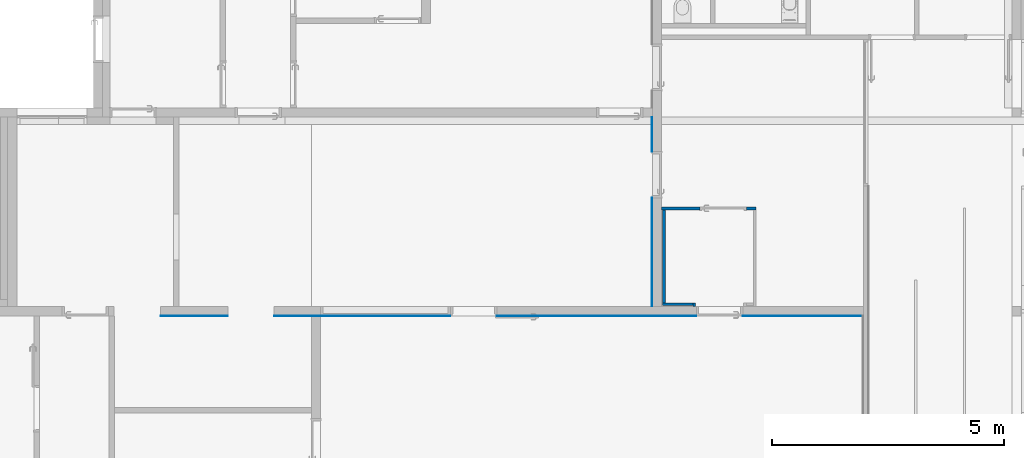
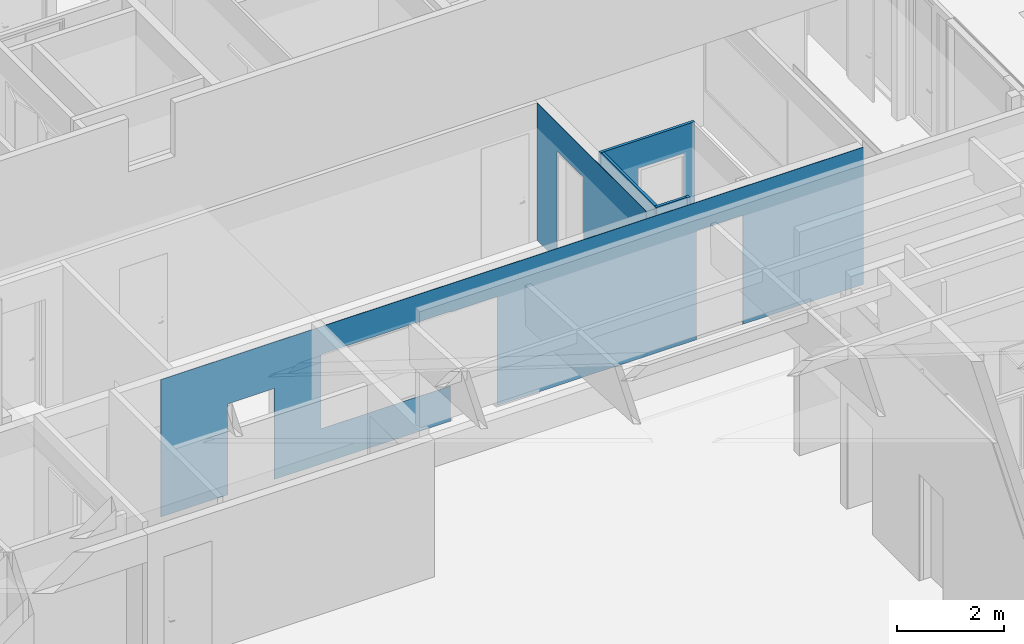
# One storey, part 87 of 240: 6 walls, 7 openings.
"""IFC2X3 building model written with IfcOpenShell, lengths in centimetres."""

from ifc_helpers import new_model, entity, si_unit, converted_unit, derived_unit, direction, frame, frame_2d, origin, origin_2d_with_axis, place, context, subcontext, project, spatial, rectangle, extrude, material, layer, layer_set, layer_usage, type_object, element, save


model = new_model("IFC2X3")

# Units and contexts
model_context = context("Model", 3, precision=0.001, world=origin(), true_north=direction((6.12303176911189e-17, 1.0)))
body_context = subcontext(model_context, "Body", "Model", "MODEL_VIEW")
ifc_project = project(units=[si_unit("LENGTHUNIT", "METRE", prefix="CENTI"), si_unit("AREAUNIT", "SQUARE_METRE"), si_unit("VOLUMEUNIT", "CUBIC_METRE"), converted_unit("PLANEANGLEUNIT", "DEGREE", entity("IfcRatioMeasure", 0.0174532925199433), si_unit("PLANEANGLEUNIT", "RADIAN"), dimensions=[0, 0, 0, 0, 0, 0, 0]), si_unit("MASSUNIT", "GRAM", prefix="KILO"), derived_unit("MASSDENSITYUNIT", [(si_unit("MASSUNIT", "GRAM", prefix="KILO"), 1), (si_unit("LENGTHUNIT", "METRE"), -3)]), si_unit("TIMEUNIT", "SECOND"), si_unit("FREQUENCYUNIT", "HERTZ"), si_unit("THERMODYNAMICTEMPERATUREUNIT", "DEGREE_CELSIUS"), derived_unit("THERMALTRANSMITTANCEUNIT", [(si_unit("MASSUNIT", "GRAM", prefix="KILO"), 1), (si_unit("THERMODYNAMICTEMPERATUREUNIT", "KELVIN"), -1), (si_unit("TIMEUNIT", "SECOND"), -3)]), derived_unit("VOLUMETRICFLOWRATEUNIT", [(si_unit("LENGTHUNIT", "METRE"), 3), (si_unit("TIMEUNIT", "SECOND"), -1)]), si_unit("ELECTRICCURRENTUNIT", "AMPERE"), si_unit("ELECTRICVOLTAGEUNIT", "VOLT"), si_unit("POWERUNIT", "WATT"), si_unit("FORCEUNIT", "NEWTON", prefix="KILO"), si_unit("ILLUMINANCEUNIT", "LUX"), si_unit("LUMINOUSFLUXUNIT", "LUMEN"), si_unit("LUMINOUSINTENSITYUNIT", "CANDELA"), derived_unit("USERDEFINED", [(si_unit("MASSUNIT", "GRAM", prefix="KILO"), -1), (si_unit("LENGTHUNIT", "METRE"), -2), (si_unit("TIMEUNIT", "SECOND"), 3), (si_unit("LUMINOUSFLUXUNIT", "LUMEN"), 1)]), derived_unit("LINEARVELOCITYUNIT", [(si_unit("LENGTHUNIT", "METRE"), 1), (si_unit("TIMEUNIT", "SECOND"), -1)]), si_unit("PRESSUREUNIT", "PASCAL"), derived_unit("USERDEFINED", [(si_unit("LENGTHUNIT", "METRE"), -2), (si_unit("MASSUNIT", "GRAM", prefix="KILO"), 1), (si_unit("TIMEUNIT", "SECOND"), -2)])], contexts=[model_context])

# Site, building, storey
site_placement = place(None, frame((-2781.94577612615, 7442.24238424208, 0.0)))
site = spatial("IfcSite", under=ifc_project, at=site_placement, Name="Default", CompositionType="ELEMENT")
building_placement = place(site_placement, origin())
building = spatial("IfcBuilding", under=site, at=building_placement, CompositionType="ELEMENT")
storey_placement = place(building_placement, origin())
storey = spatial("IfcBuildingStorey", under=building, at=storey_placement, Name="N00 - COO", CompositionType="ELEMENT", Elevation=0.0)

# Wall, opening
ifc_material_1 = material(Name="Plastique, blanc opaque")
ifc_layer_1 = layer(ifc_material_1, 0.2)
ifc_material_2 = material(Name="00 - Isolant cloison Frigo")
ifc_layer_2 = layer(ifc_material_2, 5.6)
ifc_layer_3 = layer(ifc_material_1, 0.2)
ifc_layer_set_1 = layer_set([ifc_layer_1, ifc_layer_2, ifc_layer_3], Name="Mur de base:06 - cloisons - cuisine 6cm")
ifc_layer_usage_1 = layer_usage(ifc_layer_set_1, "AXIS2", "NEGATIVE", 3.0)
wall_type_1 = type_object("IfcWallType", Name="Mur de base:06 - cloisons - cuisine 6cm", PredefinedType="STANDARD", material=ifc_layer_set_1)
wall_1_placement = place(building_placement, frame((-9677.0, -3569.51217637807, 0.0)))
wall_1 = element("IfcWallStandardCase", 1, at=wall_1_placement, inside=storey, type_object=wall_type_1, material=ifc_layer_usage_1, Name="Mur de base:06 - cloisons - cuisine 6cm", ObjectType="Mur de base:06 - cloisons - cuisine 6cm", context=body_context, shape_type="SweptSolid", body=[
    extrude(rectangle(XDim=203.974749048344, YDim=6.00000000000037, at=frame_2d((101.987374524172, -8.79296635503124e-14), x_axis=(-1.0, 0.0))), origin(), (0.0, 0.0, 1.0), 313.0),
])
opening_1_placement = place(wall_1_placement, frame((82.5824443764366, -3.0, 0.0)))
element("IfcOpeningElement", 2, at=opening_1_placement, cuts=wall_1, Name="Int. Simple:PP simple (0.93m x 2.50m):1", ObjectType="Opening", context=body_context, shape_type="SweptSolid", body=[
    extrude(rectangle(XDim=248.500000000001, YDim=99.9999999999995, at=frame_2d((124.250000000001, 49.9999999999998), x_axis=(1.0, 0.0))), frame((0.0, 0.0, 0.0), z_axis=(0.0, 1.0, 0.0), x_axis=(0.0, 0.0, 1.0)), (0.0, 0.0, 1.0), 6.0),
])

# Walls
ifc_layer_usage_2 = layer_usage(ifc_layer_set_1, "AXIS2", "NEGATIVE", 3.0)
wall_2_placement = place(building_placement, frame((-9609.4999969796, -3775.52381808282, 0.0), z_axis=(0.0, 0.0, 1.0), x_axis=(-1.0, 0.0, 0.0)))
element("IfcWallStandardCase", 3, at=wall_2_placement, inside=storey, type_object=wall_type_1, material=ifc_layer_usage_2, Name="Mur de base:06 - cloisons - cuisine 6cm", ObjectType="Mur de base:06 - cloisons - cuisine 6cm", context=body_context, shape_type="SweptSolid", body=[
    extrude(rectangle(XDim=65.5252509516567, YDim=6.00000000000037, at=frame_2d((32.7626254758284, -3.24185123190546e-14), x_axis=(-1.0, 0.0))), origin(), (0.0, 0.0, 1.0), 313.00000000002),
])
ifc_layer_usage_3 = layer_usage(ifc_layer_set_1, "AXIS2", "NEGATIVE", 3.0)
wall_3_placement = place(building_placement, frame((-9672.02524793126, -3772.52381808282, 0.0), z_axis=(0.0, 0.0, 1.0), x_axis=(0.0, 1.0, 0.0)))
element("IfcWallStandardCase", 4, at=wall_3_placement, inside=storey, type_object=wall_type_1, material=ifc_layer_usage_3, Name="Mur de base:06 - cloisons - cuisine 6cm", ObjectType="Mur de base:06 - cloisons - cuisine 6cm", context=body_context, shape_type="SweptSolid", body=[
    extrude(rectangle(XDim=200.011641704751, YDim=5.99999999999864, at=frame_2d((100.005820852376, 0.0), x_axis=(-1.0, 0.0))), origin(), (0.0, 0.0, 1.0), 313.00000000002),
])
ifc_layer_usage_4 = layer_usage(ifc_layer_set_1, "AXIS2", "NEGATIVE", 3.0)
wall_4_placement = place(building_placement, frame((-9606.4999969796, -3780.71966115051, 0.0), z_axis=(0.0, 0.0, 1.0), x_axis=(0.0, 1.0, 0.0)))
element("IfcWallStandardCase", 5, at=wall_4_placement, inside=storey, type_object=wall_type_1, material=ifc_layer_usage_4, Name="Mur de base:06 - cloisons - cuisine 6cm", ObjectType="Mur de base:06 - cloisons - cuisine 6cm", context=body_context, shape_type="SweptSolid", body=[
    extrude(rectangle(XDim=8.19584306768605, YDim=5.99999999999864, at=frame_2d((4.09792153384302, 0.0), x_axis=(-1.0, 0.0))), origin(), (0.0, 0.0, 1.0), 313.00000000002),
])

# Wall, openings
ifc_material_3 = material(Name="01 - Faïence sanitaires")
ifc_layer_4 = layer(ifc_material_3, 1.0)
ifc_layer_set_2 = layer_set([ifc_layer_4], Name="Mur de base:04 - Parement - faïence 1cm")
ifc_layer_usage_5 = layer_usage(ifc_layer_set_2, "AXIS2", "NEGATIVE", 0.5)
wall_type_2 = type_object("IfcWallType", Name="Mur de base:04 - Parement - faïence 1cm", PredefinedType="STANDARD", material=ifc_layer_set_2)
wall_5_placement = place(storey_placement, frame((-9241.932180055, -3801.21966115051, 0.0), z_axis=(0.0, 0.0, 1.0), x_axis=(-1.0, 0.0, 0.0)))
wall_5 = element("IfcWallStandardCase", 6, at=wall_5_placement, inside=storey, type_object=wall_type_2, material=ifc_layer_usage_5, Name="Mur de base:04 - Parement - faïence 1cm", ObjectType="Mur de base:04 - Parement - faïence 1cm", context=body_context, shape_type="SweptSolid", body=[
    extrude(rectangle(XDim=1515.0, YDim=0.999999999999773, at=frame_2d((757.500000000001, -1.2134737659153e-13), x_axis=(-1.0, 0.0))), origin(), (0.0, 0.0, 1.0), 313.00000000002),
])
opening_2_placement = place(wall_5_placement, origin())
element("IfcOpeningElement", 7, at=opening_2_placement, cuts=wall_5, Name="Mur de base:04 - Parement - faïence 1cm", ObjectType="Opening", context=body_context, shape_type="SweptSolid", body=[
    extrude(rectangle(XDim=207.5, YDim=100.000000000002, at=origin_2d_with_axis()), frame((1565.06781692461, -0.499999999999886, 103.75), z_axis=(0.0, 1.0, 0.0), x_axis=(0.0, 0.0, -1.0)), (0.0, 0.0, 1.0), 0.99999999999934),
])
opening_3_placement = place(wall_5_placement, origin())
element("IfcOpeningElement", 8, at=opening_3_placement, cuts=wall_5, Name="Mur de base:04 - Parement - faïence 1cm", ObjectType="Opening", context=body_context, shape_type="SweptSolid", body=[
    extrude(rectangle(XDim=207.5, YDim=100.000000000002, at=frame_2d((0.0, 1.73372427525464e-12), x_axis=(1.0, 0.0))), frame((1320.06781692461, -0.499999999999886, 103.75), z_axis=(0.0, 1.0, 0.0), x_axis=(0.0, 0.0, -1.0)), (0.0, 0.0, 1.0), 0.99999999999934),
])
opening_4_placement = place(wall_5_placement, origin())
element("IfcOpeningElement", 9, at=opening_4_placement, cuts=wall_5, Name="Mur de base:04 - Parement - faïence 1cm", ObjectType="Opening", context=body_context, shape_type="SweptSolid", body=[
    extrude(rectangle(XDim=248.500000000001, YDim=99.9999999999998, at=frame_2d((0.0, -8.66862137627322e-13), x_axis=(1.0, 0.0))), frame((840.067816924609, -152.900000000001, 124.250000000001), z_axis=(0.0, 1.0, 0.0), x_axis=(0.0, 0.0, 1.0)), (0.0, 0.0, 1.0), 304.8),
])
opening_5_placement = place(wall_5_placement, origin())
element("IfcOpeningElement", 10, at=opening_5_placement, cuts=wall_5, Name="Mur de base:04 - Parement - faïence 1cm", ObjectType="Opening", context=body_context, shape_type="SweptSolid", body=[
    extrude(rectangle(XDim=248.500000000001, YDim=99.9999999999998, at=frame_2d((8.66862137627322e-13, 0.0), x_axis=(0.0, 1.0))), frame((310.067816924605, -152.899999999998, 124.250000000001), z_axis=(0.0, 1.0, 0.0), x_axis=(-1.0, 0.0, 0.0)), (0.0, 0.0, 1.0), 304.8),
])
opening_6_placement = place(wall_5_placement, origin())
element("IfcOpeningElement", 11, at=opening_6_placement, cuts=wall_5, Name="Mur de base:04 - Parement - faïence 1cm", ObjectType="Opening", context=body_context, shape_type="SweptSolid", body=[
    extrude(rectangle(XDim=170.0, YDim=279.964741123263, at=origin_2d_with_axis()), frame((1030.05018748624, -152.9, 165.0), z_axis=(0.0, 1.0, 0.0), x_axis=(0.0, 0.0, 1.0)), (0.0, 0.0, 1.0), 304.8),
])

# Wall, opening
ifc_layer_usage_6 = layer_usage(ifc_layer_set_2, "AXIS2", "NEGATIVE", 0.5)
wall_6_placement = place(building_placement, frame((-9697.4999969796, -3780.21966115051, 0.0), z_axis=(0.0, 0.0, 1.0), x_axis=(0.0, 1.0, 0.0)))
wall_6 = element("IfcWallStandardCase", 12, at=wall_6_placement, inside=storey, type_object=wall_type_2, material=ifc_layer_usage_6, Name="Mur de base:04 - Parement - faïence 1cm", ObjectType="Mur de base:04 - Parement - faïence 1cm", context=body_context, shape_type="SweptSolid", body=[
    extrude(rectangle(XDim=407.697854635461, YDim=0.999999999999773, at=frame_2d((203.84892731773, 0.0), x_axis=(-1.0, 0.0))), origin(), (0.0, 0.0, 1.0), 313.0),
])
opening_7_placement = place(wall_6_placement, origin())
element("IfcOpeningElement", 13, at=opening_7_placement, cuts=wall_6, Name="Mur de base:04 - Parement - faïence 1cm", ObjectType="Opening", context=body_context, shape_type="SweptSolid", body=[
    extrude(rectangle(XDim=248.500000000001, YDim=99.9999999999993, at=frame_2d((2.16715534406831e-13, 0.0), x_axis=(0.0, 1.0))), frame((283.640627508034, -172.900000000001, 124.250000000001), z_axis=(0.0, 1.0, 0.0), x_axis=(-1.0, 0.0, 0.0)), (0.0, 0.0, 1.0), 304.8),
])

save(model, "model.ifc")
